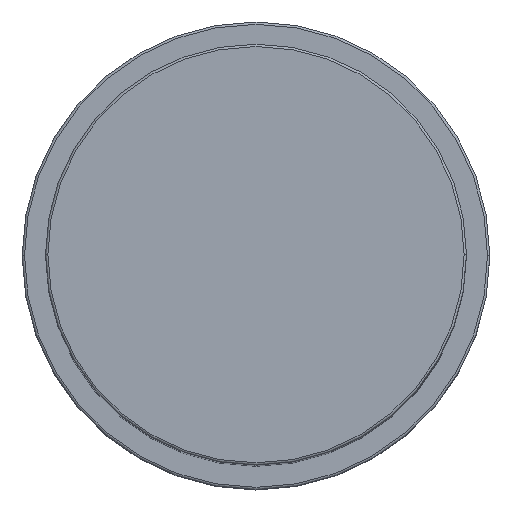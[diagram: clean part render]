
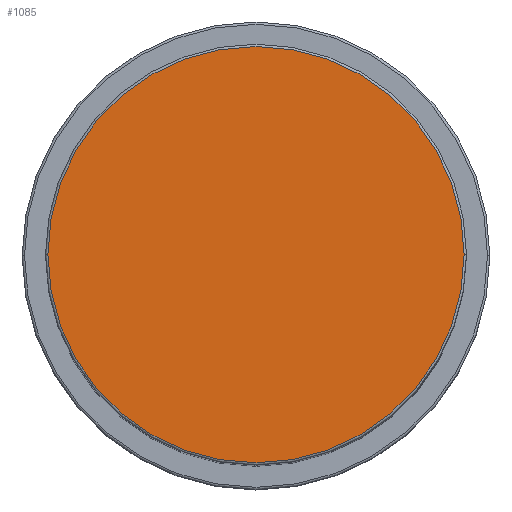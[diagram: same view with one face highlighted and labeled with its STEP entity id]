
A CAD part, top view. The second image highlights one B-rep face of the part: STEP entity #1085.
In plain terms, the highlighted planar face has unit normal (0, 0, 1).
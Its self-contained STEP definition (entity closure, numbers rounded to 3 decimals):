
#64 = CARTESIAN_POINT ( 'NONE',  ( -44.5, 0., 164. ) ) ;
#163 = ORIENTED_EDGE ( 'NONE', *, *, #1678, .T. ) ;
#173 = CIRCLE ( 'NONE', #1657, 44.5 ) ;
#268 = EDGE_LOOP ( 'NONE', ( #1306, #163 ) ) ;
#273 = DIRECTION ( 'NONE',  ( 0., 0., 1. ) ) ;
#303 = CIRCLE ( 'NONE', #1688, 44.5 ) ;
#422 = FACE_OUTER_BOUND ( 'NONE', #268, .T. ) ;
#426 = CARTESIAN_POINT ( 'NONE',  ( 0., 0., 164. ) ) ;
#555 = DIRECTION ( 'NONE',  ( 1., 0., 0. ) ) ;
#558 = PLANE ( 'NONE',  #882 ) ;
#617 = EDGE_CURVE ( 'NONE', #706, #825, #173, .T. ) ;
#706 = VERTEX_POINT ( 'NONE', #1702 ) ;
#825 = VERTEX_POINT ( 'NONE', #64 ) ;
#855 = DIRECTION ( 'NONE',  ( 0., 0., 1. ) ) ;
#882 = AXIS2_PLACEMENT_3D ( 'NONE', #1517, #273, #1102 ) ;
#1085 = ADVANCED_FACE ( 'NONE', ( #422 ), #558, .T. ) ;
#1102 = DIRECTION ( 'NONE',  ( 1., 0., 0. ) ) ;
#1306 = ORIENTED_EDGE ( 'NONE', *, *, #617, .T. ) ;
#1393 = CARTESIAN_POINT ( 'NONE',  ( 0., 0., 164. ) ) ;
#1421 = DIRECTION ( 'NONE',  ( 1., 0., 0. ) ) ;
#1517 = CARTESIAN_POINT ( 'NONE',  ( 0., 0., 164. ) ) ;
#1541 = DIRECTION ( 'NONE',  ( 0., 0., 1. ) ) ;
#1657 = AXIS2_PLACEMENT_3D ( 'NONE', #426, #1541, #1421 ) ;
#1678 = EDGE_CURVE ( 'NONE', #825, #706, #303, .T. ) ;
#1688 = AXIS2_PLACEMENT_3D ( 'NONE', #1393, #855, #555 ) ;
#1702 = CARTESIAN_POINT ( 'NONE',  ( 44.5, 0., 164. ) ) ;
